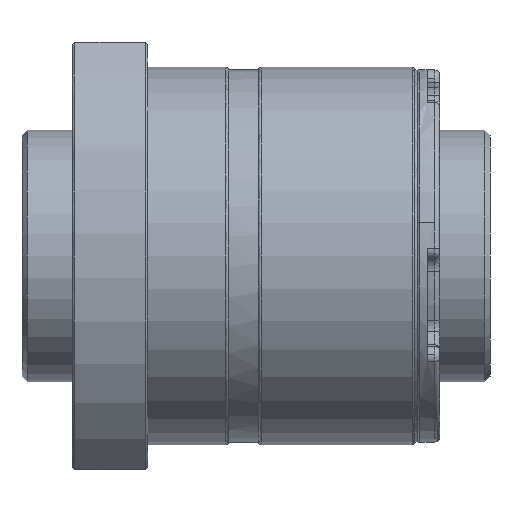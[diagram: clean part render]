
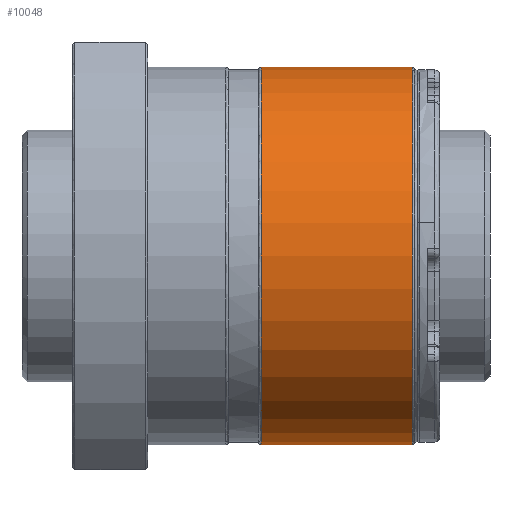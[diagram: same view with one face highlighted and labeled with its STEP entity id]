
A CAD part, front view. The second image highlights one B-rep face of the part: STEP entity #10048.
In plain terms, the highlighted cylindrical face has radius 37.5 mm (diameter 75 mm), a partial arc.
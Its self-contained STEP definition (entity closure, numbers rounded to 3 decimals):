
#852 = AXIS2_PLACEMENT_3D ( 'NONE', #2014, #1085, #9389 ) ;
#960 = VECTOR ( 'NONE', #1163, 1000. ) ;
#1073 = VERTEX_POINT ( 'NONE', #10868 ) ;
#1085 = DIRECTION ( 'NONE',  ( -1., 0., 0. ) ) ;
#1163 = DIRECTION ( 'NONE',  ( -1., 0., 0. ) ) ;
#1427 = EDGE_CURVE ( 'NONE', #13862, #1073, #1525, .T. ) ;
#1525 = CIRCLE ( 'NONE', #11106, 37.5 ) ;
#2014 = CARTESIAN_POINT ( 'NONE',  ( 68., 0., 0. ) ) ;
#2198 = CARTESIAN_POINT ( 'NONE',  ( 67.5, 0., -37.5 ) ) ;
#2404 = CARTESIAN_POINT ( 'NONE',  ( 68., 0., -37.5 ) ) ;
#2655 = EDGE_CURVE ( 'NONE', #13397, #13862, #11728, .T. ) ;
#2750 = CARTESIAN_POINT ( 'NONE',  ( 67.5, 0., 0. ) ) ;
#3513 = EDGE_CURVE ( 'NONE', #7589, #1073, #4224, .T. ) ;
#3550 = CARTESIAN_POINT ( 'NONE',  ( 37.5, 0., 0. ) ) ;
#4224 = LINE ( 'NONE', #2404, #6394 ) ;
#4697 = DIRECTION ( 'NONE',  ( 1., 0., 0. ) ) ;
#4735 = ORIENTED_EDGE ( 'NONE', *, *, #4940, .T. ) ;
#4858 = ORIENTED_EDGE ( 'NONE', *, *, #1427, .T. ) ;
#4940 = EDGE_CURVE ( 'NONE', #7589, #13397, #6367, .T. ) ;
#6124 = CYLINDRICAL_SURFACE ( 'NONE', #852, 37.5 ) ;
#6252 = CARTESIAN_POINT ( 'NONE',  ( 67.5, 0., 37.5 ) ) ;
#6367 = CIRCLE ( 'NONE', #10707, 37.5 ) ;
#6394 = VECTOR ( 'NONE', #10426, 1000. ) ;
#6848 = FACE_OUTER_BOUND ( 'NONE', #7156, .T. ) ;
#7156 = EDGE_LOOP ( 'NONE', ( #8541, #4735, #10880, #4858 ) ) ;
#7589 = VERTEX_POINT ( 'NONE', #2198 ) ;
#8329 = CARTESIAN_POINT ( 'NONE',  ( 68., 0., 37.5 ) ) ;
#8541 = ORIENTED_EDGE ( 'NONE', *, *, #3513, .F. ) ;
#9389 = DIRECTION ( 'NONE',  ( 0., 0., 1. ) ) ;
#10048 = ADVANCED_FACE ( 'NONE', ( #6848 ), #6124, .T. ) ;
#10426 = DIRECTION ( 'NONE',  ( -1., 0., 0. ) ) ;
#10707 = AXIS2_PLACEMENT_3D ( 'NONE', #2750, #14278, #10918 ) ;
#10868 = CARTESIAN_POINT ( 'NONE',  ( 37.5, 0., -37.5 ) ) ;
#10880 = ORIENTED_EDGE ( 'NONE', *, *, #2655, .T. ) ;
#10918 = DIRECTION ( 'NONE',  ( 0., 0., 1. ) ) ;
#11106 = AXIS2_PLACEMENT_3D ( 'NONE', #3550, #4697, #11710 ) ;
#11710 = DIRECTION ( 'NONE',  ( 0., 0., 1. ) ) ;
#11728 = LINE ( 'NONE', #8329, #960 ) ;
#13397 = VERTEX_POINT ( 'NONE', #6252 ) ;
#13862 = VERTEX_POINT ( 'NONE', #14941 ) ;
#14278 = DIRECTION ( 'NONE',  ( -1., 0., 0. ) ) ;
#14941 = CARTESIAN_POINT ( 'NONE',  ( 37.5, 0., 37.5 ) ) ;
